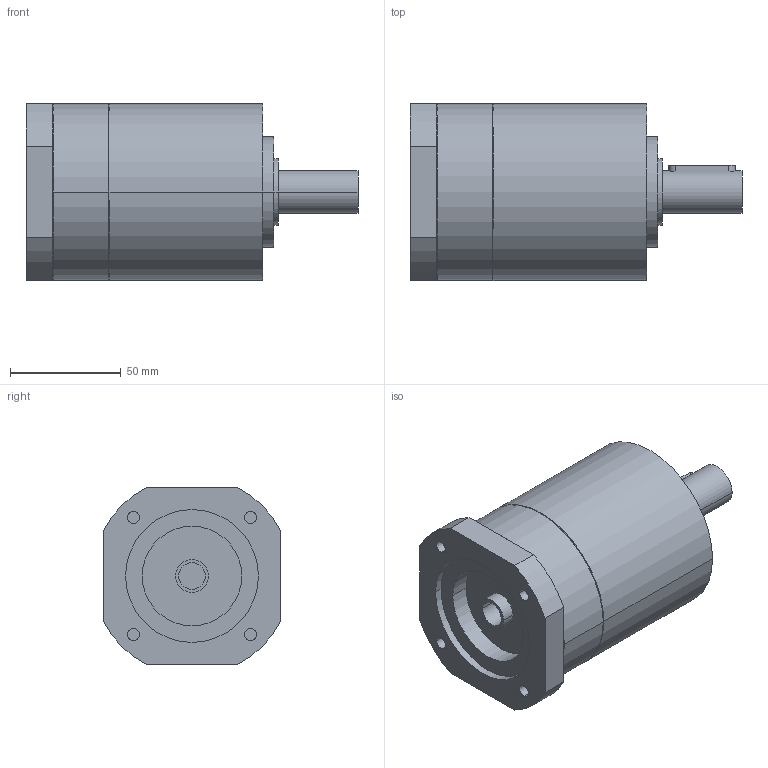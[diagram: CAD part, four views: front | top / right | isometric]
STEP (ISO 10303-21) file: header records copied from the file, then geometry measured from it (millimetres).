
FILE_DESCRIPTION(('CoCreate Modeling STEP Export'),'2;1');
FILE_NAME('GPR100_ig-3-4-5-6_19_B14_12.7_P03.stp','2014-08-26T10:06:45',(''),(''),'CoCreate Modeling STEP processor for AP214 (Solid Model)','CoCreate Modeling 16.00C 25-Feb-2009 (C) Parametric Technology GmbH','');
FILE_SCHEMA(('AUTOMOTIVE_DESIGN { 1 0 10303 214 1 1 1 1 }'));
Length unit declared in the file: millimetre
Products named in the file (2): GPR100_ig-3-4-5-6_19_B14_12.7_P03
Assembly tree (1 placements, depth 2):
  GPR100_ig-3-4-5-6_19_B14_12.7_P03
    GPR100_ig-3-4-5-6_19_B14_12.7_P03
Bounding box: 150 x 80 x 80 mm (x, y, z)
Volume: 540068.3 mm3; surface area: 48123.4 mm2
Topology: 1 solids, 1 shells, 86 faces, 231 edges, 159 vertices
Faces by surface type: cylinder 50, plane 30, cone 6
Entity records: 2312 total; most frequent: ORIENTED_EDGE 458, CARTESIAN_POINT 417, DIRECTION 314, EDGE_CURVE 229, VERTEX_POINT 159, AXIS2_PLACEMENT_3D 120, EDGE_LOOP 108, FACE_OUTER_BOUND 86
